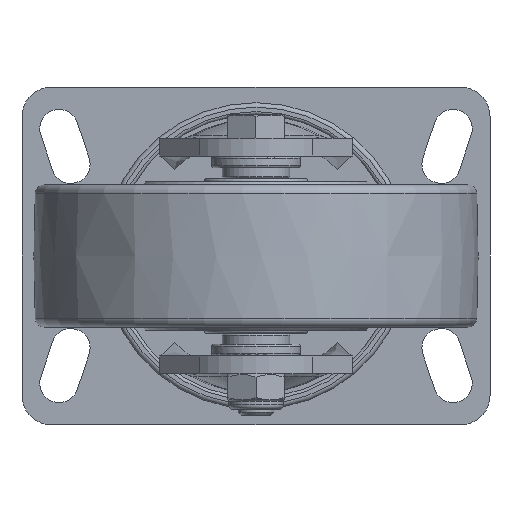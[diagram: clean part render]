
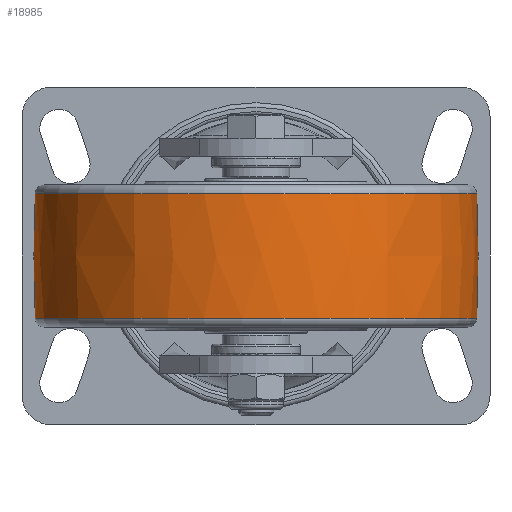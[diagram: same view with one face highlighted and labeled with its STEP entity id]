
A CAD part, front view. The second image highlights one B-rep face of the part: STEP entity #18985.
In plain terms, the highlighted free-form (B-spline) face has degree [2, 2] with [3, 9] control points.
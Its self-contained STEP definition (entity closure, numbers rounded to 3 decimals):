
#64=(
BOUNDED_CURVE()
B_SPLINE_CURVE(2,(#26151,#26152,#26153),.UNSPECIFIED.,.F.,.F.)
B_SPLINE_CURVE_WITH_KNOTS((3,3),(-0.03,0.03),
 .UNSPECIFIED.)
CURVE()
GEOMETRIC_REPRESENTATION_ITEM()
RATIONAL_B_SPLINE_CURVE((1.,1.,1.))
REPRESENTATION_ITEM('')
);
#89=(
BOUNDED_SURFACE()
B_SPLINE_SURFACE(2,2,((#26120,#26121,#26122,#26123,#26124,#26125,#26126,
#26127,#26128),(#26129,#26130,#26131,#26132,#26133,#26134,#26135,#26136,
#26137),(#26138,#26139,#26140,#26141,#26142,#26143,#26144,#26145,#26146)),
 .UNSPECIFIED.,.F.,.T.,.F.)
B_SPLINE_SURFACE_WITH_KNOTS((3,3),(3,2,2,2,3),(-0.03,0.03),
(-3.142,-1.571,0.,1.571,3.142),
 .UNSPECIFIED.)
GEOMETRIC_REPRESENTATION_ITEM()
RATIONAL_B_SPLINE_SURFACE(((1.,0.707,1.,0.707,1.,
0.707,1.,0.707,1.),(1.,0.707,
1.,0.707,1.,0.707,
1.,0.707,1.),(1.,0.707,
1.,0.707,1.,0.707,1.,0.707,1.)))
REPRESENTATION_ITEM('')
SURFACE()
);
#5204=FACE_OUTER_BOUND('',#6201,.T.);
#6201=EDGE_LOOP('',(#11988,#11989,#11990,#11991,#11992,#11993));
#7293=CIRCLE('',#19997,74.682);
#7294=CIRCLE('',#19998,74.682);
#7296=CIRCLE('',#20000,74.682);
#7297=CIRCLE('',#20001,74.682);
#7564=VERTEX_POINT('',#26114);
#7565=VERTEX_POINT('',#26115);
#7567=VERTEX_POINT('',#26147);
#7568=VERTEX_POINT('',#26148);
#9338=EDGE_CURVE('',#7564,#7565,#7293,.T.);
#9339=EDGE_CURVE('',#7565,#7564,#7294,.T.);
#9341=EDGE_CURVE('',#7567,#7568,#7296,.T.);
#9342=EDGE_CURVE('',#7568,#7567,#7297,.T.);
#9343=EDGE_CURVE('',#7568,#7565,#64,.T.);
#11988=ORIENTED_EDGE('',*,*,#9341,.F.);
#11989=ORIENTED_EDGE('',*,*,#9342,.F.);
#11990=ORIENTED_EDGE('',*,*,#9343,.T.);
#11991=ORIENTED_EDGE('',*,*,#9339,.T.);
#11992=ORIENTED_EDGE('',*,*,#9338,.T.);
#11993=ORIENTED_EDGE('',*,*,#9343,.F.);
#18985=ADVANCED_FACE('',(#5204),#89,.F.);
#19997=AXIS2_PLACEMENT_3D('',#26116,#21238,#21239);
#19998=AXIS2_PLACEMENT_3D('',#26117,#21240,#21241);
#20000=AXIS2_PLACEMENT_3D('',#26149,#21244,#21245);
#20001=AXIS2_PLACEMENT_3D('',#26150,#21246,#21247);
#21238=DIRECTION('center_axis',(0.,0.,
-1.));
#21239=DIRECTION('ref_axis',(-0.689,-0.725,0.));
#21240=DIRECTION('center_axis',(0.,0.,
-1.));
#21241=DIRECTION('ref_axis',(-0.689,-0.725,0.));
#21244=DIRECTION('center_axis',(0.,0.,
-1.));
#21245=DIRECTION('ref_axis',(-0.689,-0.725,0.));
#21246=DIRECTION('center_axis',(0.,0.,
-1.));
#21247=DIRECTION('ref_axis',(-0.689,-0.725,0.));
#26114=CARTESIAN_POINT('',(-63.508,-55.193,21.09));
#26115=CARTESIAN_POINT('',(42.074,-52.486,21.09));
#26116=CARTESIAN_POINT('Origin',(-9.363,-106.63,21.09));
#26117=CARTESIAN_POINT('Origin',(-9.363,-106.63,21.09));
#26120=CARTESIAN_POINT('Ctrl Pts',(42.074,-52.486,21.09));
#26121=CARTESIAN_POINT('Ctrl Pts',(96.219,-103.924,21.09));
#26122=CARTESIAN_POINT('Ctrl Pts',(44.781,-158.068,21.09));
#26123=CARTESIAN_POINT('Ctrl Pts',(-6.657,-212.212,
21.09));
#26124=CARTESIAN_POINT('Ctrl Pts',(-60.801,-160.775,21.09));
#26125=CARTESIAN_POINT('Ctrl Pts',(-114.945,-109.337,
21.09));
#26126=CARTESIAN_POINT('Ctrl Pts',(-63.508,-55.193,
21.09));
#26127=CARTESIAN_POINT('Ctrl Pts',(-12.07,-1.049,
21.09));
#26128=CARTESIAN_POINT('Ctrl Pts',(42.074,-52.486,21.09));
#26129=CARTESIAN_POINT('Ctrl Pts',(42.512,-52.025,0.));
#26130=CARTESIAN_POINT('Ctrl Pts',(97.117,-103.901,0.));
#26131=CARTESIAN_POINT('Ctrl Pts',(45.242,-158.506,0.));
#26132=CARTESIAN_POINT('Ctrl Pts',(-6.633,-213.111,
0.));
#26133=CARTESIAN_POINT('Ctrl Pts',(-61.239,-161.236,
0.));
#26134=CARTESIAN_POINT('Ctrl Pts',(-115.844,-109.36,
0.));
#26135=CARTESIAN_POINT('Ctrl Pts',(-63.969,-54.755,
0.));
#26136=CARTESIAN_POINT('Ctrl Pts',(-12.093,-0.15,
0.));
#26137=CARTESIAN_POINT('Ctrl Pts',(42.512,-52.025,0.));
#26138=CARTESIAN_POINT('Ctrl Pts',(42.074,-52.486,-21.09));
#26139=CARTESIAN_POINT('Ctrl Pts',(96.219,-103.924,-21.09));
#26140=CARTESIAN_POINT('Ctrl Pts',(44.781,-158.068,-21.09));
#26141=CARTESIAN_POINT('Ctrl Pts',(-6.657,-212.212,
-21.09));
#26142=CARTESIAN_POINT('Ctrl Pts',(-60.801,-160.775,
-21.09));
#26143=CARTESIAN_POINT('Ctrl Pts',(-114.945,-109.337,
-21.09));
#26144=CARTESIAN_POINT('Ctrl Pts',(-63.508,-55.193,
-21.09));
#26145=CARTESIAN_POINT('Ctrl Pts',(-12.07,-1.049,
-21.09));
#26146=CARTESIAN_POINT('Ctrl Pts',(42.074,-52.486,-21.09));
#26147=CARTESIAN_POINT('',(-63.508,-55.193,-21.09));
#26148=CARTESIAN_POINT('',(42.074,-52.486,-21.09));
#26149=CARTESIAN_POINT('Origin',(-9.363,-106.63,-21.09));
#26150=CARTESIAN_POINT('Origin',(-9.363,-106.63,-21.09));
#26151=CARTESIAN_POINT('Ctrl Pts',(42.074,-52.486,-21.09));
#26152=CARTESIAN_POINT('Ctrl Pts',(42.512,-52.025,0.));
#26153=CARTESIAN_POINT('Ctrl Pts',(42.074,-52.486,21.09));
